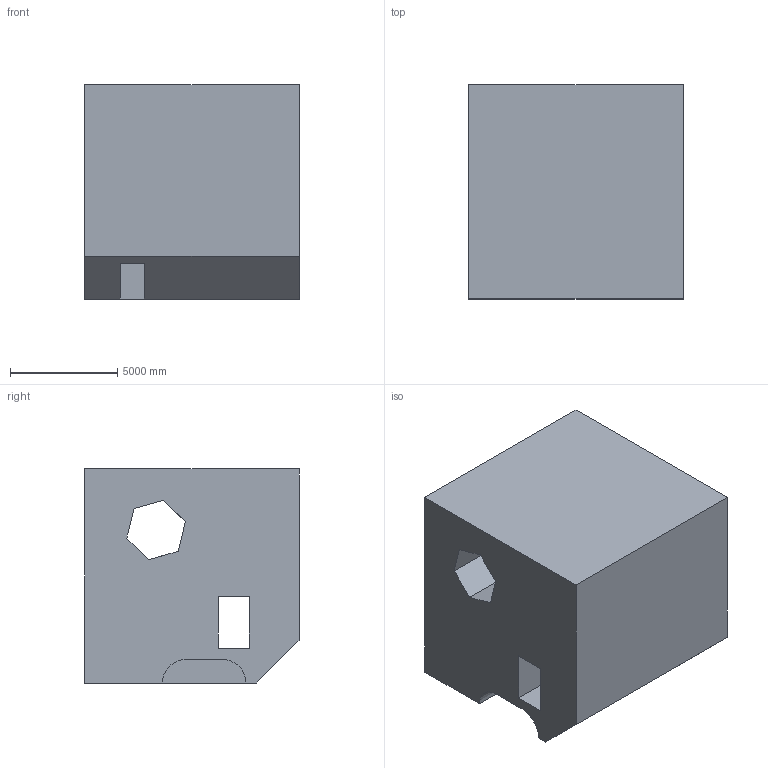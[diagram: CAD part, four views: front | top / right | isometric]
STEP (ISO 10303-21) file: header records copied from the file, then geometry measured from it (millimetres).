
FILE_DESCRIPTION (( 'STEP AP203' ), '1' );
FILE_NAME ('1516.STEP', '2022-08-18T14:58:40', ( 'user' ), ( '' ), 'SwSTEP 2.0', 'SolidWorks 2021', '' );
FILE_SCHEMA (( 'CONFIG_CONTROL_DESIGN' ));
Length unit declared in the file: centimetre
Products named in the file (1): 1516
Bounding box: 10000 x 10000 x 10000 mm (x, y, z)
Volume: 868196585910.5 mm3; surface area: 749526819 mm2
Topology: 1 solids, 1 shells, 32 faces, 90 edges, 60 vertices
Faces by surface type: plane 25, cylinder 7
Entity records: 1113 total; most frequent: CARTESIAN_POINT 183, ORIENTED_EDGE 180, DIRECTION 170, EDGE_CURVE 90, VECTOR 76, LINE 76, VERTEX_POINT 60, AXIS2_PLACEMENT_3D 47
